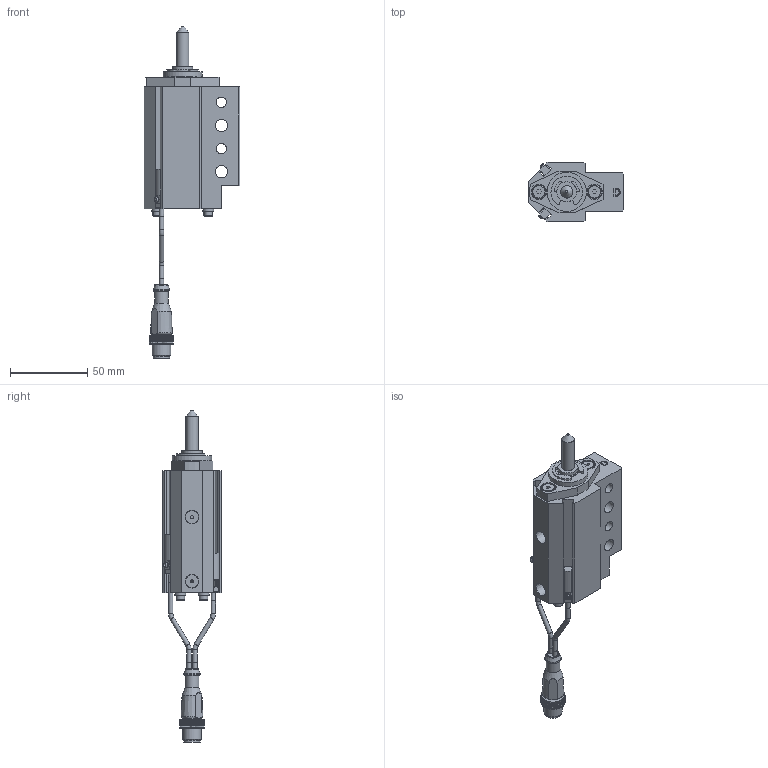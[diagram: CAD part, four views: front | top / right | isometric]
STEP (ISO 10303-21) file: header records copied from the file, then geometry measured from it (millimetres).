
FILE_DESCRIPTION(/* description */ ('NAAMS FLOATING MICRO PIN'),/* implementation_level */ '2;1');
FILE_NAME(/* name */ 'C:\Vault Workspace\CAD\Welker\Shot Pin\NMP\NMP080022DANL3.stp',/* time_stamp */ '2021-01-27T08:40:52-05:00',/* author */ ('WELKER'),/* organization */ (''),/* preprocessor_version */ 'ST-DEVELOPER v18.1',/* originating_system */ 'Autodesk Inventor 2020',/* authorisation */ '');
FILE_SCHEMA (('AUTOMOTIVE_DESIGN { 1 0 10303 214 3 1 1 }'));
Length unit declared in the file: millimetre
Products named in the file (16): NMPL01; NMP L3 SWITCH; L3 Connector; L3 Sensor 1; L3 Sensor 2; L3 Sensor cable; L3 Sensor cable 2; M3X0.5-8 SHCS; NL3; NMPE06; NMPE03; NMPE05-DIA-LENGTH; 985432A218; NMPE01D-PORT; RMPE02; M5X5 SHOULDER
Assembly tree (22 placements, depth 3):
  NMPL01
    NMP L3 SWITCH
      L3 Connector
      L3 Sensor 1
      L3 Sensor 2
      L3 Sensor cable
      L3 Sensor cable 2
    M3X0.5-8 SHCS  x4
    NL3  x4
    NMPE06
    NMPE03
    NMPE05-DIA-LENGTH
    985432A218
    NMPE01D-PORT
    RMPE02
    M5X5 SHOULDER  x2
Bounding box: 62 x 38.1 x 214.73 mm (x, y, z)
Volume: 112018.6 mm3; surface area: 45197.6 mm2
Topology: 21 solids, 21 shells, 747 faces, 2022 edges, 1352 vertices
Faces by surface type: plane 548, cylinder 144, cone 31, torus 11, bspline 10, sphere 3
Full cylindrical faces by diameter (mm): 2 x2, 2.459 x4, 2.9 x10, 3 x5, 3.242 x2, 3.4 x4, 4 x2, 5 x6, 5.5 x4, 6.647 x2, 7 x4, 8 x3, 8.3 x2, 9 x3, 10 x3, 10.4 x1, 10.5 x1, 12 x1, 13 x3, 16 x2, 19.05 x3, 21 x1, 22.5 x1, 23.672 x1, 24 x1, 25.4 x1, 25.5 x1, 26.5 x1, 28.677 x1, 29.21 x1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
Entity records: 22825 total; most frequent: CARTESIAN_POINT 4228, ORIENTED_EDGE 3742, DIRECTION 3699, EDGE_CURVE 1871, LINE 1375, VECTOR 1375, VERTEX_POINT 1257, AXIS2_PLACEMENT_3D 1162
